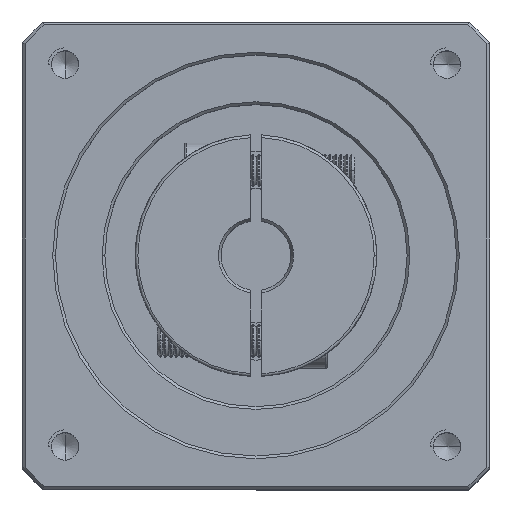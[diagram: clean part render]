
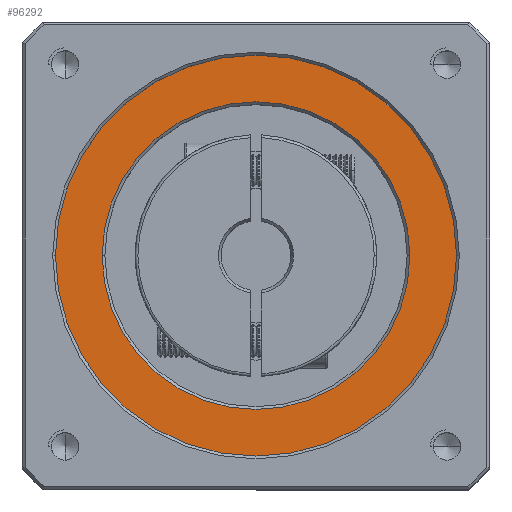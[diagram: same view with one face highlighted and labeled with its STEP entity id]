
A CAD part, top view. The second image highlights one B-rep face of the part: STEP entity #96292.
In plain terms, the highlighted planar face has unit normal (0, 0, 1).
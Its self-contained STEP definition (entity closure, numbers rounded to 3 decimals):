
#3555 = AXIS2_PLACEMENT_3D ( 'NONE', #42264, #103041, #51057 ) ;
#3942 = CARTESIAN_POINT ( 'NONE',  ( -10.304, 7.876, 176.5 ) ) ;
#12494 = EDGE_CURVE ( 'NONE', #29475, #66404, #77160, .T. ) ;
#12611 = DIRECTION ( 'NONE',  ( 1., 0., 0. ) ) ;
#14543 = EDGE_CURVE ( 'NONE', #57406, #97709, #43811, .T. ) ;
#15490 = CARTESIAN_POINT ( 'NONE',  ( -46.804, 7.876, 176.5 ) ) ;
#17717 = ORIENTED_EDGE ( 'NONE', *, *, #71951, .T. ) ;
#24986 = PLANE ( 'NONE',  #101773 ) ;
#29000 = CARTESIAN_POINT ( 'NONE',  ( 26.196, 7.876, 176.5 ) ) ;
#29475 = VERTEX_POINT ( 'NONE', #37587 ) ;
#34403 = DIRECTION ( 'NONE',  ( 0., 0., -1. ) ) ;
#37587 = CARTESIAN_POINT ( 'NONE',  ( -38.304, 7.876, 176.5 ) ) ;
#37903 = AXIS2_PLACEMENT_3D ( 'NONE', #86438, #34403, #95170 ) ;
#42264 = CARTESIAN_POINT ( 'NONE',  ( -10.304, 7.876, 176.5 ) ) ;
#43811 = CIRCLE ( 'NONE', #3555, 36.5 ) ;
#49575 = DIRECTION ( 'NONE',  ( 0., 0., 1. ) ) ;
#50417 = ORIENTED_EDGE ( 'NONE', *, *, #77992, .T. ) ;
#51057 = DIRECTION ( 'NONE',  ( 1., 0., 0. ) ) ;
#52001 = DIRECTION ( 'NONE',  ( 0., 0., 1. ) ) ;
#54042 = CIRCLE ( 'NONE', #37903, 28. ) ;
#55243 = ORIENTED_EDGE ( 'NONE', *, *, #14543, .T. ) ;
#55606 = AXIS2_PLACEMENT_3D ( 'NONE', #3942, #64690, #12611 ) ;
#57406 = VERTEX_POINT ( 'NONE', #15490 ) ;
#64181 = EDGE_LOOP ( 'NONE', ( #50417, #93710 ) ) ;
#64690 = DIRECTION ( 'NONE',  ( 0., 0., -1. ) ) ;
#66404 = VERTEX_POINT ( 'NONE', #103689 ) ;
#71354 = AXIS2_PLACEMENT_3D ( 'NONE', #101550, #49575, #110266 ) ;
#71951 = EDGE_CURVE ( 'NONE', #97709, #57406, #107476, .T. ) ;
#77160 = CIRCLE ( 'NONE', #55606, 28. ) ;
#77992 = EDGE_CURVE ( 'NONE', #66404, #29475, #54042, .T. ) ;
#85930 = EDGE_LOOP ( 'NONE', ( #17717, #55243 ) ) ;
#86438 = CARTESIAN_POINT ( 'NONE',  ( -10.304, 7.876, 176.5 ) ) ;
#93710 = ORIENTED_EDGE ( 'NONE', *, *, #12494, .T. ) ;
#95170 = DIRECTION ( 'NONE',  ( 1., 0., 0. ) ) ;
#96292 = ADVANCED_FACE ( 'NONE', ( #112703, #110047 ), #24986, .T. ) ;
#97709 = VERTEX_POINT ( 'NONE', #29000 ) ;
#101550 = CARTESIAN_POINT ( 'NONE',  ( -10.304, 7.876, 176.5 ) ) ;
#101773 = AXIS2_PLACEMENT_3D ( 'NONE', #103977, #52001, #112656 ) ;
#103041 = DIRECTION ( 'NONE',  ( 0., 0., 1. ) ) ;
#103689 = CARTESIAN_POINT ( 'NONE',  ( 17.696, 7.876, 176.5 ) ) ;
#103977 = CARTESIAN_POINT ( 'NONE',  ( -10.304, 7.876, 176.5 ) ) ;
#107476 = CIRCLE ( 'NONE', #71354, 36.5 ) ;
#110047 = FACE_BOUND ( 'NONE', #64181, .T. ) ;
#110266 = DIRECTION ( 'NONE',  ( 1., 0., 0. ) ) ;
#112656 = DIRECTION ( 'NONE',  ( 1., 0., 0. ) ) ;
#112703 = FACE_OUTER_BOUND ( 'NONE', #85930, .T. ) ;
